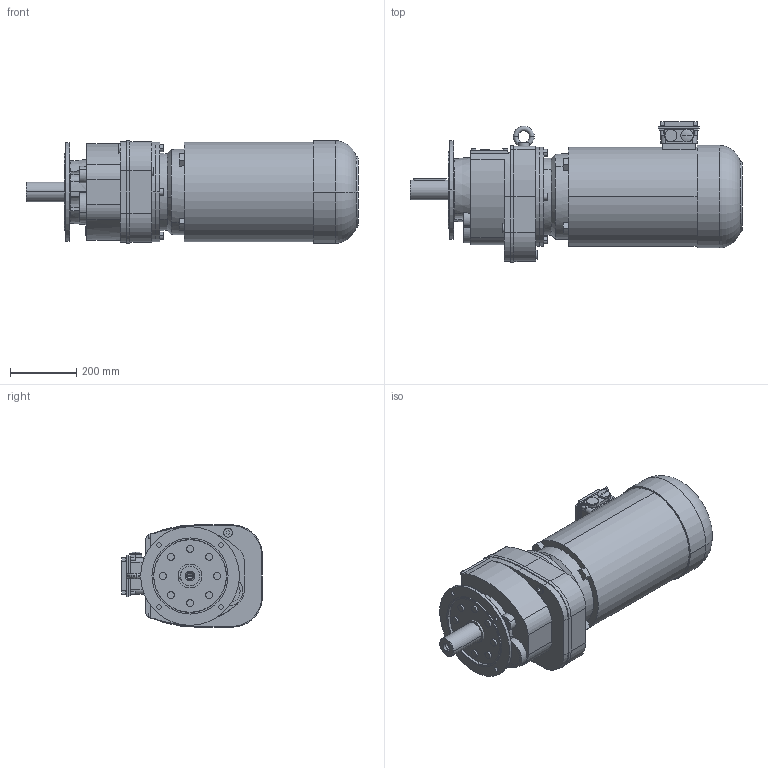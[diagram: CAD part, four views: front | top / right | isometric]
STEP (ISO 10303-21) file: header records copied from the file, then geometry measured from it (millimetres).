
FILE_DESCRIPTION(('STEP AP214'),'1');
FILE_NAME('STEP-File.stp','2018-01-01T00:00:00',(' '),('KEB'),' ','KEB-DRIVE',' ');
FILE_SCHEMA(('AUTOMOTIVE_DESIGN { 1 0 10303 214 1 1 1 1 }'));
Length unit declared in the file: millimetre
Products named in the file (10): g6b; w6_we_60x120; c6_300; cs6; dm160_kkn; kk10; PLUG_M32; SCREW-PLUG_M32; ndm160; G63C DM160MB4§CAD13
Assembly tree (9 placements, depth 2):
  G63C DM160MB4§CAD13
    g6b
    w6_we_60x120
    c6_300
    cs6
    dm160_kkn
    kk10
    PLUG_M32
    SCREW-PLUG_M32
    ndm160
Bounding box: 1003.49 x 425.1 x 310 mm (x, y, z)
Volume: 62593012.5 mm3; surface area: 1748269 mm2
Topology: 9 solids, 9 shells, 377 faces, 908 edges, 598 vertices
Faces by surface type: plane 198, cylinder 132, cone 29, torus 18
Entity records: 12445 total; most frequent: CARTESIAN_POINT 3687, ORIENTED_EDGE 1812, DIRECTION 1657, EDGE_CURVE 906, VERTEX_POINT 598, AXIS2_PLACEMENT_3D 587, VECTOR 483, LINE 483
